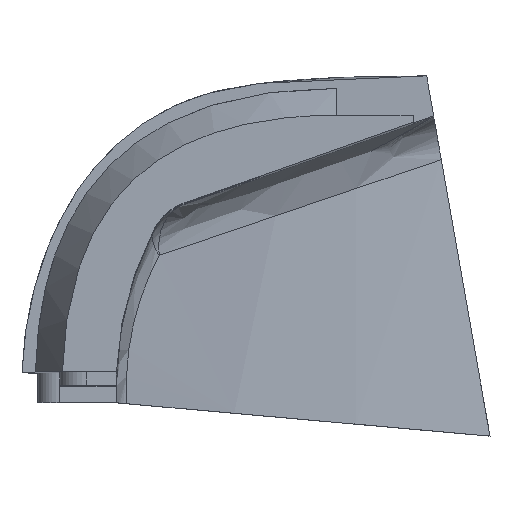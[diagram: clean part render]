
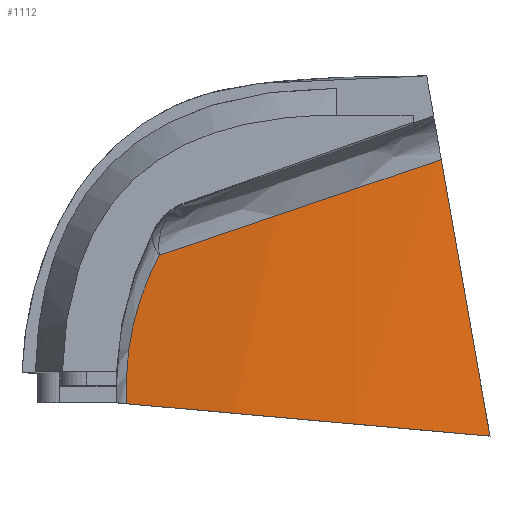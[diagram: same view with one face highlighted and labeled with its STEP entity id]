
A CAD part, top view. The second image highlights one B-rep face of the part: STEP entity #1112.
In plain terms, the highlighted cylindrical face has radius 58 mm (diameter 116 mm), a partial arc.
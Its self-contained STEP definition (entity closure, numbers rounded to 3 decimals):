
#69 = VERTEX_POINT ( 'NONE', #1000 ) ;
#128 = CARTESIAN_POINT ( 'NONE',  ( 50.555, 13.801, 3.918 ) ) ;
#143 = DIRECTION ( 'NONE',  ( 0., -1., 0. ) ) ;
#164 = CARTESIAN_POINT ( 'NONE',  ( 3.368, 0.372, -29.807 ) ) ;
#184 =( BOUNDED_CURVE ( )  B_SPLINE_CURVE ( 3, ( #1907, #186, #1044, #212 ),
 .UNSPECIFIED., .F., .F. ) 
 B_SPLINE_CURVE_WITH_KNOTS ( ( 4, 4 ),
 ( 0.656, 0.912 ),
 .UNSPECIFIED. ) 
 CURVE ( )  GEOMETRIC_REPRESENTATION_ITEM ( )  RATIONAL_B_SPLINE_CURVE ( ( 1., 0.995, 0.995, 1. ) ) 
 REPRESENTATION_ITEM ( '' )  );
#186 = CARTESIAN_POINT ( 'NONE',  ( 7.618, 5.898, -35.389 ) ) ;
#212 = CARTESIAN_POINT ( 'NONE',  ( 15.041, 8.429, -41.938 ) ) ;
#335 = DIRECTION ( 'NONE',  ( 0., 0., -1. ) ) ;
#468 = VERTEX_POINT ( 'NONE', #782 ) ;
#522 = CARTESIAN_POINT ( 'NONE',  ( 3.585, 2.09, -30.109 ) ) ;
#530 = CARTESIAN_POINT ( 'NONE',  ( 3.393, -0.633, -29.841 ) ) ;
#589 = CARTESIAN_POINT ( 'NONE',  ( 3.747, 2.789, -30.332 ) ) ;
#645 = ORIENTED_EDGE ( 'NONE', *, *, #1961, .F. ) ;
#649 = ORIENTED_EDGE ( 'NONE', *, *, #946, .F. ) ;
#666 = ORIENTED_EDGE ( 'NONE', *, *, #969, .F. ) ;
#693 = CARTESIAN_POINT ( 'NONE',  ( 3.431, 1.121, -29.896 ) ) ;
#734 = CARTESIAN_POINT ( 'NONE',  ( 15.041, 8.429, -41.938 ) ) ;
#747 = VERTEX_POINT ( 'NONE', #2217 ) ;
#759 = CARTESIAN_POINT ( 'NONE',  ( 4.593, 4.866, -31.459 ) ) ;
#782 = CARTESIAN_POINT ( 'NONE',  ( 16.847, -1.81, -43.281 ) ) ;
#804 = FACE_OUTER_BOUND ( 'NONE', #1566, .T. ) ;
#885 = B_SPLINE_CURVE_WITH_KNOTS ( 'NONE', 3,
 ( #2235, #1201, #164, #693, #1900, #2066, #522, #589, #1438, #1776, #1288, #759 ),
 .UNSPECIFIED., .F., .F.,
 ( 4, 2, 2, 2, 2, 4 ),
 ( 0., 0.002, 0.002, 0.003, 0.005, 0.006 ),
 .UNSPECIFIED. ) ;
#909 = CARTESIAN_POINT ( 'NONE',  ( 11.641, -1.355, -39.564 ) ) ;
#946 = EDGE_CURVE ( 'NONE', #468, #993, #1960, .T. ) ;
#969 = EDGE_CURVE ( 'NONE', #747, #69, #184, .T. ) ;
#993 = VERTEX_POINT ( 'NONE', #530 ) ;
#1000 = CARTESIAN_POINT ( 'NONE',  ( 15.041, 8.429, -41.938 ) ) ;
#1044 = CARTESIAN_POINT ( 'NONE',  ( 11.12, 7.092, -38.901 ) ) ;
#1112 = ADVANCED_FACE ( 'NONE', ( #804 ), #2175, .F. ) ;
#1201 = CARTESIAN_POINT ( 'NONE',  ( 3.361, -0.129, -29.798 ) ) ;
#1288 = CARTESIAN_POINT ( 'NONE',  ( 4.391, 4.486, -31.196 ) ) ;
#1374 =( BOUNDED_CURVE ( )  B_SPLINE_CURVE ( 3, ( #1395, #1916, #1573, #734 ),
 .UNSPECIFIED., .F., .T. ) 
 B_SPLINE_CURVE_WITH_KNOTS ( ( 4, 4 ),
 ( 2.191, 2.23 ),
 .UNSPECIFIED. ) 
 CURVE ( )  GEOMETRIC_REPRESENTATION_ITEM ( )  RATIONAL_B_SPLINE_CURVE ( ( 1., 1., 1., 1. ) ) 
 REPRESENTATION_ITEM ( '' )  );
#1395 = CARTESIAN_POINT ( 'NONE',  ( 16.847, -1.81, -43.281 ) ) ;
#1414 = CARTESIAN_POINT ( 'NONE',  ( 7.116, -0.959, -35.043 ) ) ;
#1425 = CARTESIAN_POINT ( 'NONE',  ( 3.393, -0.633, -29.841 ) ) ;
#1438 = CARTESIAN_POINT ( 'NONE',  ( 3.886, 3.24, -30.522 ) ) ;
#1566 = EDGE_LOOP ( 'NONE', ( #645, #649, #2166, #666 ) ) ;
#1573 = CARTESIAN_POINT ( 'NONE',  ( 15.635, 5.066, -42.397 ) ) ;
#1776 = CARTESIAN_POINT ( 'NONE',  ( 4.208, 4.086, -30.953 ) ) ;
#1782 = EDGE_CURVE ( 'NONE', #468, #69, #1374, .T. ) ;
#1891 = CARTESIAN_POINT ( 'NONE',  ( 16.847, -1.81, -43.281 ) ) ;
#1900 = CARTESIAN_POINT ( 'NONE',  ( 3.462, 1.369, -29.938 ) ) ;
#1907 = CARTESIAN_POINT ( 'NONE',  ( 4.593, 4.866, -31.459 ) ) ;
#1916 = CARTESIAN_POINT ( 'NONE',  ( 16.236, 1.652, -42.845 ) ) ;
#1939 = AXIS2_PLACEMENT_3D ( 'NONE', #128, #143, #335 ) ;
#1960 =( BOUNDED_CURVE ( )  B_SPLINE_CURVE ( 3, ( #1891, #909, #1414, #1425 ),
 .UNSPECIFIED., .F., .F. ) 
 B_SPLINE_CURVE_WITH_KNOTS ( ( 4, 4 ),
 ( 2.191, 2.52 ),
 .UNSPECIFIED. ) 
 CURVE ( )  GEOMETRIC_REPRESENTATION_ITEM ( )  RATIONAL_B_SPLINE_CURVE ( ( 1., 0.991, 0.991, 1. ) ) 
 REPRESENTATION_ITEM ( '' )  );
#1961 = EDGE_CURVE ( 'NONE', #993, #747, #885, .T. ) ;
#2066 = CARTESIAN_POINT ( 'NONE',  ( 3.539, 1.853, -30.045 ) ) ;
#2166 = ORIENTED_EDGE ( 'NONE', *, *, #1782, .T. ) ;
#2175 = CYLINDRICAL_SURFACE ( 'NONE', #1939, 58. ) ;
#2217 = CARTESIAN_POINT ( 'NONE',  ( 4.593, 4.866, -31.459 ) ) ;
#2235 = CARTESIAN_POINT ( 'NONE',  ( 3.393, -0.633, -29.841 ) ) ;
